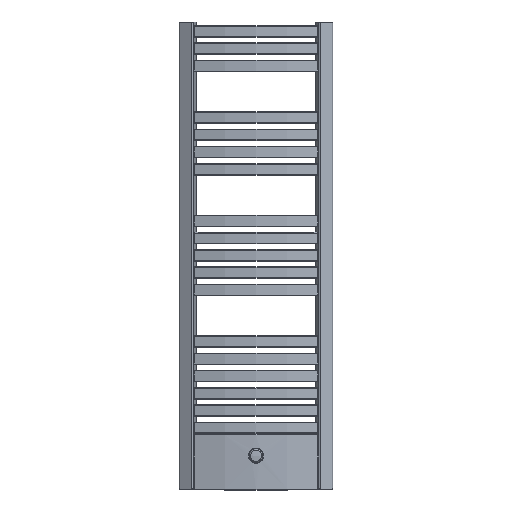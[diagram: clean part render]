
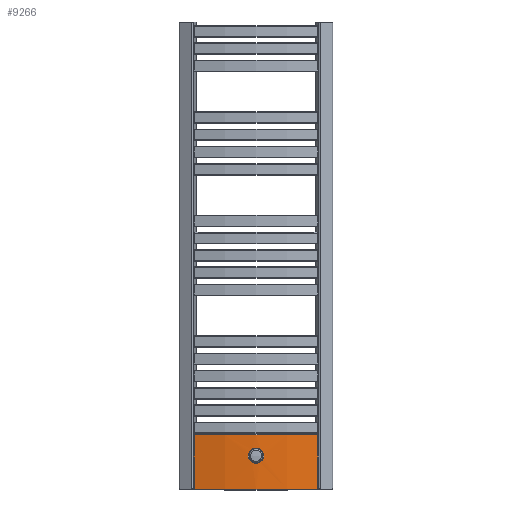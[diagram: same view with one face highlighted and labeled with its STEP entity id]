
A CAD part, front view. The second image highlights one B-rep face of the part: STEP entity #9266.
In plain terms, the highlighted cylindrical face has radius 602.649 mm (diameter 1205.3 mm), a partial arc.
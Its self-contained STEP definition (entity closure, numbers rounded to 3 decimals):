
#8084=CARTESIAN_POINT('',(-19.244,-52.725,87.5));
#8085=VERTEX_POINT('',#8084);
#8086=CARTESIAN_POINT('',(-19.244,-52.725,87.5));
#8087=CARTESIAN_POINT('',(-19.244,-52.725,88.708));
#8088=CARTESIAN_POINT('',(-19.129,-52.729,89.958));
#8089=CARTESIAN_POINT('',(-18.643,-52.744,92.445));
#8090=CARTESIAN_POINT('',(-18.272,-52.755,93.681));
#8091=CARTESIAN_POINT('',(-17.292,-52.784,96.053));
#8092=CARTESIAN_POINT('',(-16.681,-52.802,97.191));
#8093=CARTESIAN_POINT('',(-15.27,-52.839,99.294));
#8094=CARTESIAN_POINT('',(-14.469,-52.859,100.261));
#8095=CARTESIAN_POINT('',(-12.762,-52.898,101.972));
#8096=CARTESIAN_POINT('',(-11.797,-52.918,102.776));
#8097=CARTESIAN_POINT('',(-9.694,-52.955,104.193));
#8098=CARTESIAN_POINT('',(-8.557,-52.973,104.806));
#8099=CARTESIAN_POINT('',(-6.185,-53.002,105.79));
#8100=CARTESIAN_POINT('',(-4.948,-53.013,106.163));
#8101=CARTESIAN_POINT('',(-2.46,-53.028,106.651));
#8102=CARTESIAN_POINT('',(-1.21,-53.032,106.767));
#8103=CARTESIAN_POINT('',(1.21,-53.032,106.767));
#8104=CARTESIAN_POINT('',(2.46,-53.028,106.651));
#8105=CARTESIAN_POINT('',(4.948,-53.013,106.163));
#8106=CARTESIAN_POINT('',(6.185,-53.002,105.79));
#8107=CARTESIAN_POINT('',(8.557,-52.973,104.806));
#8108=CARTESIAN_POINT('',(9.694,-52.955,104.193));
#8109=CARTESIAN_POINT('',(11.797,-52.918,102.776));
#8110=CARTESIAN_POINT('',(12.762,-52.898,101.972));
#8111=CARTESIAN_POINT('',(14.469,-52.859,100.261));
#8112=CARTESIAN_POINT('',(15.27,-52.839,99.294));
#8113=CARTESIAN_POINT('',(16.681,-52.802,97.191));
#8114=CARTESIAN_POINT('',(17.292,-52.784,96.053));
#8115=CARTESIAN_POINT('',(18.272,-52.755,93.681));
#8116=CARTESIAN_POINT('',(18.643,-52.744,92.445));
#8117=CARTESIAN_POINT('',(19.129,-52.729,89.958));
#8118=CARTESIAN_POINT('',(19.244,-52.725,88.708));
#8119=CARTESIAN_POINT('',(19.244,-52.725,86.291));
#8120=CARTESIAN_POINT('',(19.129,-52.729,85.041));
#8121=CARTESIAN_POINT('',(18.642,-52.744,82.554));
#8122=CARTESIAN_POINT('',(18.272,-52.755,81.317));
#8123=CARTESIAN_POINT('',(17.291,-52.784,78.944));
#8124=CARTESIAN_POINT('',(16.68,-52.802,77.807));
#8125=CARTESIAN_POINT('',(15.268,-52.839,75.703));
#8126=CARTESIAN_POINT('',(14.467,-52.859,74.736));
#8127=CARTESIAN_POINT('',(12.759,-52.898,73.025));
#8128=CARTESIAN_POINT('',(11.794,-52.918,72.222));
#8129=CARTESIAN_POINT('',(9.692,-52.955,70.806));
#8130=CARTESIAN_POINT('',(8.555,-52.973,70.193));
#8131=CARTESIAN_POINT('',(6.183,-53.002,69.209));
#8132=CARTESIAN_POINT('',(4.947,-53.013,68.837));
#8133=CARTESIAN_POINT('',(2.46,-53.028,68.349));
#8134=CARTESIAN_POINT('',(1.209,-53.032,68.233));
#8135=CARTESIAN_POINT('',(-1.209,-53.032,68.233));
#8136=CARTESIAN_POINT('',(-2.46,-53.028,68.349));
#8137=CARTESIAN_POINT('',(-4.947,-53.013,68.837));
#8138=CARTESIAN_POINT('',(-6.183,-53.002,69.209));
#8139=CARTESIAN_POINT('',(-8.555,-52.973,70.193));
#8140=CARTESIAN_POINT('',(-9.692,-52.955,70.806));
#8141=CARTESIAN_POINT('',(-11.794,-52.918,72.222));
#8142=CARTESIAN_POINT('',(-12.759,-52.898,73.025));
#8143=CARTESIAN_POINT('',(-14.467,-52.859,74.736));
#8144=CARTESIAN_POINT('',(-15.268,-52.839,75.703));
#8145=CARTESIAN_POINT('',(-16.68,-52.802,77.807));
#8146=CARTESIAN_POINT('',(-17.291,-52.784,78.944));
#8147=CARTESIAN_POINT('',(-18.272,-52.755,81.317));
#8148=CARTESIAN_POINT('',(-18.642,-52.744,82.554));
#8149=CARTESIAN_POINT('',(-19.129,-52.729,85.041));
#8150=CARTESIAN_POINT('',(-19.244,-52.725,86.291));
#8151=CARTESIAN_POINT('',(-19.244,-52.725,87.5));
#8152=B_SPLINE_CURVE_WITH_KNOTS('',3,(#8086,#8087,#8088,#8089,#8090,#8091,#8092,#8093,#8094,#8095,#8096,#8097,#8098,#8099,#8100,#8101,#8102,#8103,#8104,#8105,#8106,#8107,#8108,#8109,#8110,#8111,#8112,#8113,#8114,#8115,#8116,#8117,#8118,#8119,#8120,#8121,#8122,#8123,#8124,#8125,#8126,#8127,#8128,#8129,#8130,#8131,#8132,#8133,#8134,#8135,#8136,#8137,#8138,#8139,#8140,#8141,#8142,#8143,#8144,#8145,#8146,#8147,#8148,#8149,#8150,#8151),.UNSPECIFIED.,.T.,.U.,(4,2,2,2,2,2,2,2,2,2,2,2,2,2,2,2,2,2,2,2,2,2,2,2,2,2,2,2,2,2,2,2,4),(0.0,0.363,0.725,1.088,1.45,1.813,2.176,2.539,2.902,3.264,3.627,3.99,4.353,4.716,5.078,5.441,5.803,6.166,6.528,6.891,7.254,7.617,7.979,8.342,8.705,9.068,9.43,9.793,10.156,10.518,10.881,11.244,11.606),.UNSPECIFIED.);
#8153=EDGE_CURVE('',#8085,#8085,#8152,.T.);
#9222=CARTESIAN_POINT('',(0.,549.617,2.));
#9223=DIRECTION('',(0.,0.,1.0));
#9224=DIRECTION('',(0.268,-0.963,0.));
#9225=AXIS2_PLACEMENT_3D('',#9222,#9223,#9224);
#9226=CYLINDRICAL_SURFACE('',#9225,602.649);
#9227=CARTESIAN_POINT('',(161.768,-30.915,0.));
#9228=VERTEX_POINT('',#9227);
#9229=CARTESIAN_POINT('',(-161.768,-30.915,0.));
#9230=VERTEX_POINT('',#9229);
#9231=CARTESIAN_POINT('',(0.,549.617,0.));
#9232=DIRECTION('',(0.0,0.0,-1.0));
#9233=DIRECTION('',(0.0,-1.0,0.0));
#9234=AXIS2_PLACEMENT_3D('',#9231,#9232,#9233);
#9235=CIRCLE('',#9234,602.649);
#9236=EDGE_CURVE('',#9228,#9230,#9235,.T.);
#9237=ORIENTED_EDGE('',*,*,#9236,.F.);
#9238=CARTESIAN_POINT('',(161.768,-30.915,142.));
#9239=VERTEX_POINT('',#9238);
#9240=CARTESIAN_POINT('',(161.768,-30.915,0.));
#9241=DIRECTION('',(0.0,0.0,1.0));
#9242=VECTOR('',#9241,142.);
#9243=LINE('',#9240,#9242);
#9244=EDGE_CURVE('',#9228,#9239,#9243,.T.);
#9245=ORIENTED_EDGE('',*,*,#9244,.T.);
#9246=CARTESIAN_POINT('',(-161.768,-30.915,142.));
#9247=VERTEX_POINT('',#9246);
#9248=CARTESIAN_POINT('',(0.,549.617,142.));
#9249=DIRECTION('',(0.0,0.0,1.0));
#9250=DIRECTION('',(0.0,-1.0,0.0));
#9251=AXIS2_PLACEMENT_3D('',#9248,#9249,#9250);
#9252=CIRCLE('',#9251,602.649);
#9253=EDGE_CURVE('',#9247,#9239,#9252,.T.);
#9254=ORIENTED_EDGE('',*,*,#9253,.F.);
#9255=CARTESIAN_POINT('',(-161.768,-30.915,0.));
#9256=DIRECTION('',(0.0,0.0,1.0));
#9257=VECTOR('',#9256,142.);
#9258=LINE('',#9255,#9257);
#9259=EDGE_CURVE('',#9230,#9247,#9258,.T.);
#9260=ORIENTED_EDGE('',*,*,#9259,.F.);
#9261=EDGE_LOOP('',(#9237,#9245,#9254,#9260));
#9262=FACE_OUTER_BOUND('',#9261,.T.);
#9263=ORIENTED_EDGE('',*,*,#8153,.T.);
#9264=EDGE_LOOP('',(#9263));
#9265=FACE_BOUND('',#9264,.T.);
#9266=ADVANCED_FACE('',(#9262,#9265),#9226,.T.);
